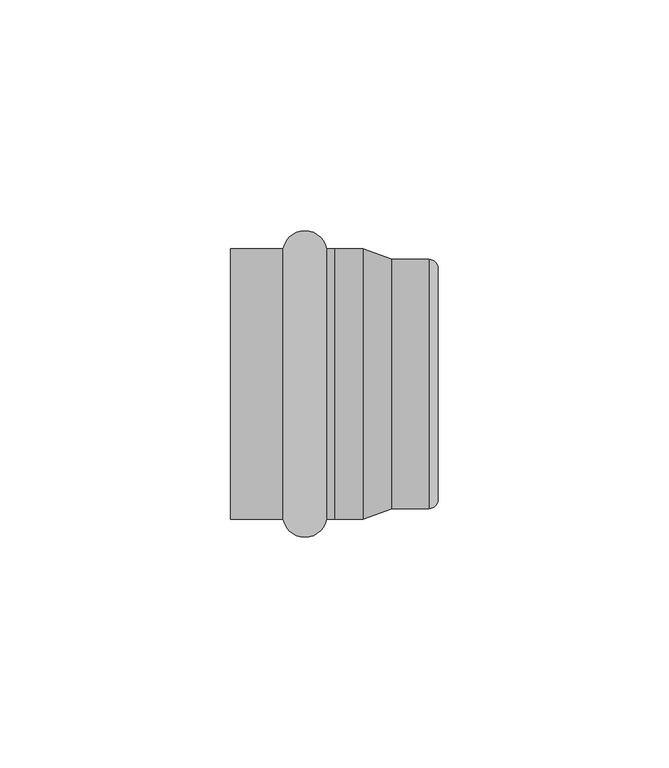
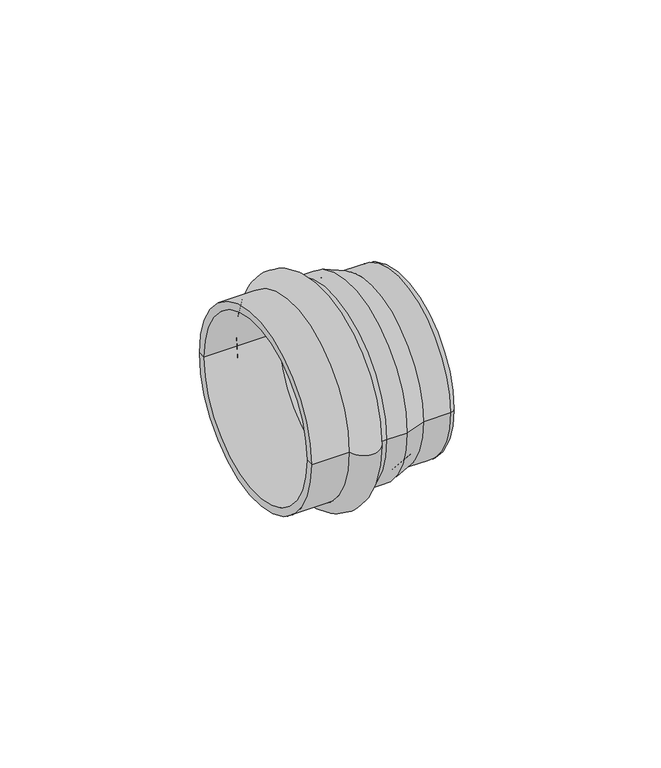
"""IFC4 building model written with IfcOpenShell, lengths in millimetres: pipe fitting geometry, VALTEC_VTi.961.I_Заглушка_нержавеющая : VTi.961.I."""

from ifc_helpers import new_model, si_unit, point, frame, origin, place, context, project, spatial, polyline, circle_curve, ellipse_curve, trimmed, source, transform, mapped, element, save
from ifc_brep_helpers import plane_surface, cylinder_surface, revolved_surface, advanced_brep


def pipe_fitting_86285bc7(model_context):
    return source(origin(), model_context, "Body", "AdvancedBrep", [
        advanced_brep(
        [(11.3851299, -29.3, 0.0), (11.3851299, 29.3, 0.0), (20.8148701, 29.3, 0.0), (20.8148701, -29.3, 0.0), (0.0, -29.3, 0.0), (0.0, 29.3, 0.0), (0.0, -27.0, 0.0), (0.0, 27.0, 0.0), (22.5, -27.0, 0.0), (22.5, 27.0, 0.0), (22.5, -29.3, 0.0), (22.5, 29.3, 0.0)],
        [
            (0, 1, circle_curve(frame((11.3851299, 0.0, 0.0), z_axis=(1.0, 0.0, 0.0), x_axis=(0.0, 1.0, 0.0)), 29.3)),
            (1, 2, circle_curve(frame((16.1, 28.4, 0.0), z_axis=(0.0, 0.0, -1.0), x_axis=(1.0, 0.0, 0.0)), 4.8)),
            (2, 3, circle_curve(frame((20.8148701, 0.0, 0.0), z_axis=(-1.0, 0.0, 0.0), x_axis=(0.0, 1.0, 0.0)), 29.3)),
            (3, 0, circle_curve(frame((16.1, -28.4, 0.0), z_axis=(0.0, 0.0, -1.0), x_axis=(1.0, 0.0, 0.0)), 4.8)),
            (1, 0, circle_curve(frame((11.3851299, 0.0, 0.0), z_axis=(1.0, 0.0, 0.0), x_axis=(0.0, 1.0, 0.0)), 29.3)),
            (3, 2, circle_curve(frame((20.8148701, 0.0, 0.0), z_axis=(-1.0, 0.0, 0.0), x_axis=(0.0, 1.0, 0.0)), 29.3)),
            (4, 5, circle_curve(frame((0.0, 0.0, 0.0), z_axis=(1.0, 0.0, 0.0), x_axis=(0.0, 1.0, 0.0)), 29.3)),
            (5, 1),
            (0, 4),
            (5, 4, circle_curve(frame((0.0, 0.0, 0.0), z_axis=(1.0, 0.0, 0.0), x_axis=(0.0, 1.0, 0.0)), 29.3)),
            (6, 7, circle_curve(frame((0.0, 0.0, 0.0), z_axis=(1.0, 0.0, 0.0), x_axis=(0.0, 1.0, 0.0)), 27.0)),
            (7, 5),
            (4, 6),
            (7, 6, circle_curve(frame((0.0, 0.0, 0.0), z_axis=(1.0, 0.0, 0.0), x_axis=(0.0, 1.0, 0.0)), 27.0)),
            (8, 9, circle_curve(frame((22.5, 0.0, 0.0), z_axis=(1.0, 0.0, 0.0), x_axis=(0.0, 1.0, 0.0)), 27.0)),
            (9, 7),
            (6, 8),
            (9, 8, circle_curve(frame((22.5, 0.0, 0.0), z_axis=(1.0, 0.0, 0.0), x_axis=(0.0, 1.0, 0.0)), 27.0)),
            (10, 11, circle_curve(frame((22.5, 0.0, 0.0), z_axis=(1.0, 0.0, 0.0), x_axis=(0.0, 1.0, 0.0)), 29.3)),
            (11, 9),
            (8, 10),
            (11, 10, circle_curve(frame((22.5, 0.0, 0.0), z_axis=(1.0, 0.0, 0.0), x_axis=(0.0, 1.0, 0.0)), 29.3)),
            (2, 11),
            (10, 3),
        ],
        [
            revolved_surface(trimmed(ellipse_curve(frame((16.1, 28.4, 0.0), z_axis=(0.0, 0.0, 1.0), x_axis=(1.0, 0.0, 0.0)), 4.8, 4.8), [point((20.8148701, 29.3, 0.0))], [point((11.3851299, 29.3, 0.0))], True, "CARTESIAN"), (-3.5364426, 0.0, 0.0), (-1.0, 0.0, 0.0)),
            cylinder_surface(frame((-3.5364426, 0.0, 0.0), z_axis=(-1.0, 0.0, 0.0), x_axis=(0.0, 1.0, 0.0)), 29.3),
            plane_surface(frame((0.0, 0.0, 0.0), z_axis=(-1.0, 0.0, 0.0), x_axis=(0.0, 1.0, 0.0))),
            revolved_surface(polyline([(0.0, 27.0, 0.0), (22.5, 27.0, 0.0)]), (-3.5364426, 0.0, 0.0), (-1.0, 0.0, 0.0)),
            plane_surface(frame((22.5, 0.0, 0.0), z_axis=(1.0, 0.0, 0.0), x_axis=(0.0, 1.0, 0.0))),
        ],
        [
            (0, [[1, 2, 3, 4]]),
            (0, [[5, -4, 6, -2]]),
            (1, [[7, 8, -1, 9]]),
            (1, [[10, -9, -5, -8]]),
            (2, [[11, 12, -7, 13]]),
            (2, [[14, -13, -10, -12]]),
            (3, [[15, 16, -11, 17]]),
            (3, [[18, -17, -14, -16]]),
            (4, [[19, 20, -15, 21]]),
            (4, [[22, -21, -18, -20]]),
            (1, [[-3, 23, -19, 24]]),
            (1, [[-6, -24, -22, -23]]),
        ],
    ),
        advanced_brep(
        [(22.5, -29.3, 0.0), (22.5, 29.3, 0.0), (28.6808019, 29.3, 0.0), (28.6808019, -29.3, 0.0), (28.6808019, -27.0, 0.0), (28.6808019, 27.0, 0.0), (22.5, 27.0, 0.0), (22.5, -27.0, 0.0), (42.7, -24.7, 0.0), (42.7, 24.7, 0.0), (35.0, 24.7, 0.0), (35.0, -24.7, 0.0), (42.7, 0.0, 0.0), (45.0, -25.0, 0.0), (45.0, 25.0, 0.0), (45.0, 0.0, 0.0), (35.0, -27.0, 0.0), (35.0, 27.0, 0.0), (43.0, 27.0, 0.0), (43.0, -27.0, 0.0)],
        [
            (0, 1, circle_curve(frame((22.5, 0.0, 0.0), z_axis=(1.0, 0.0, 0.0), x_axis=(0.0, 1.0, 0.0)), 29.3)),
            (1, 2),
            (2, 3, circle_curve(frame((28.6808019, 0.0, 0.0), z_axis=(-1.0, 0.0, 0.0), x_axis=(0.0, 1.0, 0.0)), 29.3)),
            (3, 0),
            (1, 0, circle_curve(frame((22.5, 0.0, 0.0), z_axis=(1.0, 0.0, 0.0), x_axis=(0.0, 1.0, 0.0)), 29.3)),
            (3, 2, circle_curve(frame((28.6808019, 0.0, 0.0), z_axis=(-1.0, 0.0, 0.0), x_axis=(0.0, 1.0, 0.0)), 29.3)),
            (4, 5, circle_curve(frame((28.6808019, 0.0, 0.0), z_axis=(1.0, 0.0, 0.0), x_axis=(0.0, 1.0, 0.0)), 27.0)),
            (5, 6),
            (6, 7, circle_curve(frame((22.5, 0.0, 0.0), z_axis=(-1.0, 0.0, 0.0), x_axis=(0.0, 1.0, 0.0)), 27.0)),
            (7, 4),
            (5, 4, circle_curve(frame((28.6808019, 0.0, 0.0), z_axis=(1.0, 0.0, 0.0), x_axis=(0.0, 1.0, 0.0)), 27.0)),
            (7, 6, circle_curve(frame((22.5, 0.0, 0.0), z_axis=(-1.0, 0.0, 0.0), x_axis=(0.0, 1.0, 0.0)), 27.0)),
            (6, 1),
            (0, 7),
            (8, 9, circle_curve(frame((42.7, 0.0, 0.0), z_axis=(1.0, 0.0, 0.0), x_axis=(0.0, 1.0, 0.0)), 24.7)),
            (9, 10),
            (10, 11, circle_curve(frame((35.0, 0.0, 0.0), z_axis=(-1.0, 0.0, 0.0), x_axis=(0.0, 1.0, 0.0)), 24.7)),
            (11, 8),
            (9, 8, circle_curve(frame((42.7, 0.0, 0.0), z_axis=(1.0, 0.0, 0.0), x_axis=(0.0, 1.0, 0.0)), 24.7)),
            (11, 10, circle_curve(frame((35.0, 0.0, 0.0), z_axis=(-1.0, 0.0, 0.0), x_axis=(0.0, 1.0, 0.0)), 24.7)),
            (12, 9),
            (8, 12),
            (13, 14, circle_curve(frame((45.0, 0.0, 0.0), z_axis=(1.0, 0.0, 0.0), x_axis=(0.0, 1.0, 0.0)), 25.0)),
            (14, 15),
            (15, 13),
            (14, 13, circle_curve(frame((45.0, 0.0, 0.0), z_axis=(1.0, 0.0, 0.0), x_axis=(0.0, 1.0, 0.0)), 25.0)),
            (16, 17, circle_curve(frame((35.0, 0.0, 0.0), z_axis=(1.0, 0.0, 0.0), x_axis=(0.0, 1.0, 0.0)), 27.0)),
            (17, 18),
            (18, 19, circle_curve(frame((43.0, 0.0, 0.0), z_axis=(-1.0, 0.0, 0.0), x_axis=(0.0, 1.0, 0.0)), 27.0)),
            (19, 16),
            (17, 16, circle_curve(frame((35.0, 0.0, 0.0), z_axis=(1.0, 0.0, 0.0), x_axis=(0.0, 1.0, 0.0)), 27.0)),
            (19, 18, circle_curve(frame((43.0, 0.0, 0.0), z_axis=(-1.0, 0.0, 0.0), x_axis=(0.0, 1.0, 0.0)), 27.0)),
            (2, 17),
            (16, 3),
            (10, 5),
            (4, 11),
            (18, 14, circle_curve(frame((43.0, 25.0, 0.0), z_axis=(0.0, 0.0, -1.0), x_axis=(1.0, 0.0, 0.0)), 2.0)),
            (13, 19, circle_curve(frame((43.0, -25.0, 0.0), z_axis=(0.0, 0.0, -1.0), x_axis=(1.0, 0.0, 0.0)), 2.0)),
        ],
        [
            cylinder_surface(frame((-40.0167378, 0.0, 0.0), z_axis=(-1.0, 0.0, 0.0), x_axis=(0.0, 1.0, 0.0)), 29.3),
            revolved_surface(polyline([(22.5, 27.0, 0.0), (28.68080189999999, 27.0, 0.0)]), (-40.0167378, 0.0, 0.0), (-1.0, 0.0, 0.0)),
            plane_surface(frame((22.5, 0.0, 0.0), z_axis=(-1.0, 0.0, 0.0), x_axis=(0.0, 1.0, 0.0))),
            revolved_surface(polyline([(35.0, 24.7, 0.0), (42.7, 24.7, 0.0)]), (-40.0167378, 0.0, 0.0), (-1.0, 0.0, 0.0)),
            plane_surface(frame((42.7, 0.0, 0.0), z_axis=(-1.0, 0.0, 0.0), x_axis=(0.0, 1.0, 0.0))),
            plane_surface(frame((45.0, 0.0, 0.0), z_axis=(1.0, 0.0, 0.0), x_axis=(0.0, 1.0, 0.0))),
            cylinder_surface(frame((-40.0167378, 0.0, 0.0), z_axis=(-1.0, 0.0, 0.0), x_axis=(0.0, 1.0, 0.0)), 27.0),
            revolved_surface(polyline([(35.0, 27.0, 0.0), (28.6808019, 29.3, 0.0)]), (-40.0167378, 0.0, 0.0), (-1.0, 0.0, 0.0)),
            revolved_surface(polyline([(28.6808019, 27.0, 0.0), (35.0, 24.7, 0.0)]), (-40.0167378, 0.0, 0.0), (-1.0, 0.0, 0.0)),
            revolved_surface(trimmed(ellipse_curve(frame((43.0, 25.0, 0.0), z_axis=(0.0, 0.0, 1.0), x_axis=(1.0, 0.0, 0.0)), 2.0, 2.0), [point((45.0, 25.0, 0.0))], [point((43.0, 27.0, 0.0))], True, "CARTESIAN"), (-40.0167378, 0.0, 0.0), (-1.0, 0.0, 0.0)),
        ],
        [
            (0, [[1, 2, 3, 4]]),
            (0, [[5, -4, 6, -2]]),
            (1, [[7, 8, 9, 10]]),
            (1, [[11, -10, 12, -8]]),
            (2, [[-9, 13, -1, 14]]),
            (2, [[-12, -14, -5, -13]]),
            (3, [[15, 16, 17, 18]]),
            (3, [[19, -18, 20, -16]]),
            (4, [[21, -15, 22]]),
            (4, [[-22, -19, -21]]),
            (5, [[23, 24, 25]]),
            (5, [[26, -25, -24]]),
            (6, [[27, 28, 29, 30]]),
            (6, [[31, -30, 32, -28]]),
            (7, [[-3, 33, -27, 34]]),
            (7, [[-6, -34, -31, -33]]),
            (8, [[-17, 35, -7, 36]]),
            (8, [[-20, -36, -11, -35]]),
            (9, [[-29, 37, -23, 38]]),
            (9, [[-32, -38, -26, -37]]),
        ],
    ),
    ])


if __name__ == "__main__":
    model = new_model("IFC4")
    model_context = context("Model", 3, world=origin())
    ifc_project = project(units=[si_unit("LENGTHUNIT", "METRE", prefix="MILLI")], contexts=[model_context])
    site = spatial("IfcSite", under=ifc_project)
    building = spatial("IfcBuilding", under=site)
    placement = place(None, origin())
    pipe_fitting_shape = pipe_fitting_86285bc7(model_context)
    element("IfcPipeFitting", 1, ObjectType="VALTEC_VTi.961.I_Заглушка_нержавеющая : VTi.961.I", at=placement, inside=building, context=model_context, shape_type="MappedRepresentation", body=[
        mapped(pipe_fitting_shape, transform((0.0, 0.0, 0.0), x_axis=(1.0, 0.0, 0.0), y_axis=(0.0, 1.0, 0.0), z_axis=(0.0, 0.0, 1.0))),
    ])
    save(model, "model.ifc")
